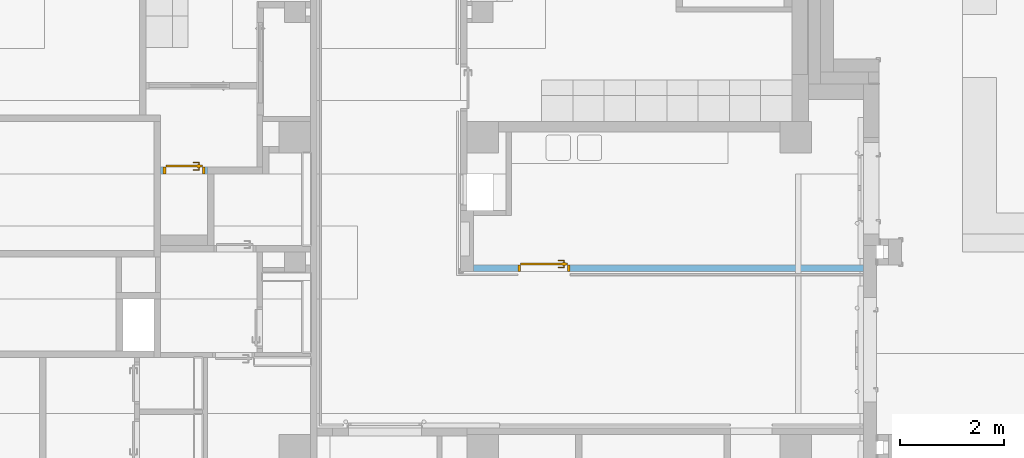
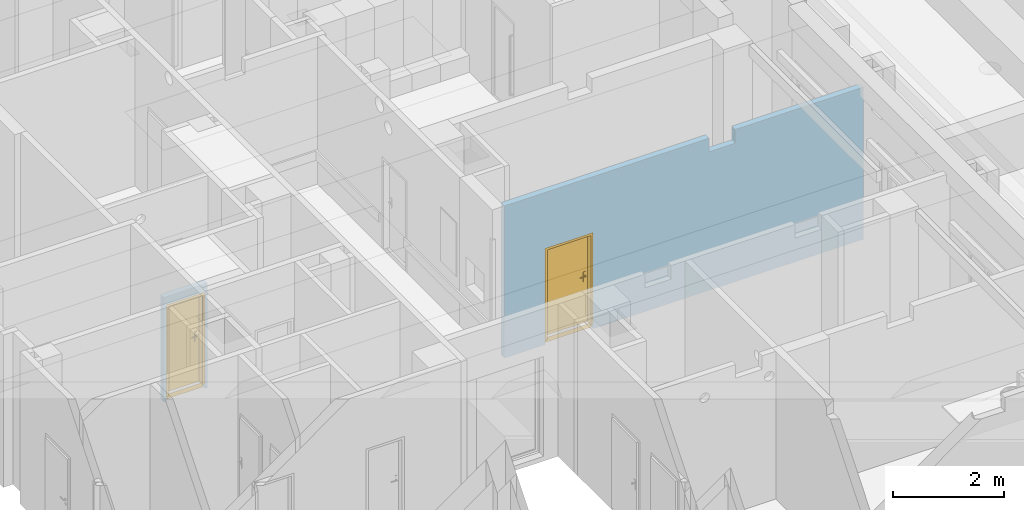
# One storey, part 96 of 140: 2 doors, 3 openings, plus 2 elements that do not belong to this part.
"""IFC4 building model written with IfcOpenShell, lengths in metres."""

from ifc_helpers import new_model, entity, si_unit, converted_unit, derived_unit, frame, frame_2d, origin, origin_with_axes, place, context, subcontext, project, spatial, polyline, rectangle, outline, extrude, closed_shell, open_shell, surface_model, source, transform, mapped, material, layer, layer_set, layer_usage, type_object, element, fill, save


model = new_model("IFC4")

# Units and contexts
model_context = context("Model", 3, precision=1e-05, world=origin())
body_context = subcontext(model_context, "Body", "Model", "MODEL_VIEW")
ifc_project = project(units=[si_unit("LENGTHUNIT", "METRE"), si_unit("AREAUNIT", "SQUARE_METRE"), si_unit("VOLUMEUNIT", "CUBIC_METRE"), si_unit("MASSUNIT", "GRAM", prefix="KILO"), converted_unit("PLANEANGLEUNIT", "DEGREE", entity("IfcPlaneAngleMeasure", 0.0174532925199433), si_unit("PLANEANGLEUNIT", "RADIAN"), dimensions=[0, 0, 0, 0, 0, 0, 0]), derived_unit("THERMALTRANSMITTANCEUNIT", [(si_unit("POWERUNIT", "WATT"), 1), (si_unit("THERMODYNAMICTEMPERATUREUNIT", "KELVIN"), -1), (si_unit("LENGTHUNIT", "METRE"), -2)]), derived_unit("VOLUMETRICFLOWRATEUNIT", [(si_unit("LENGTHUNIT", "METRE"), 3), (converted_unit("TIMEUNIT", "hour", entity("IfcTimeMeasure", 3600.0), si_unit("TIMEUNIT", "SECOND"), dimensions=[0, 0, 1, 0, 0, 0, 0]), -1), (si_unit("LENGTHUNIT", "METRE"), -1)])], contexts=[model_context])

# Site, building, storey
site_placement = place(None, origin())
site = spatial("IfcSite", under=ifc_project, at=site_placement, Name="3. ASŘ", CompositionType="ELEMENT")
building_placement = place(site_placement, origin())
building = spatial("IfcBuilding", under=site, at=building_placement, Name="Pavilon C", CompositionType="ELEMENT")
storey_placement = place(building_placement, origin())
storey = spatial("IfcBuildingStorey", under=building, at=storey_placement, Name="Půdorys 1.NP", CompositionType="ELEMENT", Elevation=0.0)

# Wall, opening, door
ifc_material_1 = material(Name="YTONG 125")
ifc_layer_1 = layer(ifc_material_1, 0.125)
ifc_layer_set_1 = layer_set([ifc_layer_1])
ifc_layer_usage_1 = layer_usage(ifc_layer_set_1, "AXIS2", "POSITIVE", 0.0)
wall_1_placement = place(storey_placement, frame((37.775, 18.5, -0.1)))
wall_1 = element("IfcWall", 1, at=wall_1_placement, inside=storey, material=ifc_layer_usage_1, Name="YTONG 125", context=body_context, shape_type="SweptSolid", body=[
    extrude(rectangle(XDim=0.9, YDim=0.125, at=frame_2d((0.45, 0.0625), x_axis=(1.0, 0.0))), origin_with_axes(), (0.0, 0.0, 1.0), 2.3),
])
opening_1_placement = place(wall_1_placement, frame((0.05, 0.0, 0.0), z_axis=(0.0, 1.0, 0.0), x_axis=(0.0, 0.0, 1.0)))
opening_1 = element("IfcOpeningElement", 2, at=opening_1_placement, cuts=wall_1, Name="Dveřní otvor", ObjectType="Opening", context=body_context, shape_type="SweptSolid", body=[
    extrude(outline(polyline([(0.0, 0.8), (2.12, 0.8), (2.12, 0.0), (0.0, 0.0), (0.0, 0.8)])), origin_with_axes(), (0.0, 0.0, 1.0), 0.125),
])
door_type_1 = type_object("IfcDoorType", Name="I.D107", OperationType="NOTDEFINED", ParameterTakesPrecedence=False, PredefinedType="DOOR")
shared_shape_1 = source(origin_with_axes(), body_context, "Body", "SurfaceModel", [
    surface_model("IfcShellBasedSurfaceModel", [(0.0, 0.0625, 0.0), (0.8, 0.0625, 0.0), (0.8, 0.0625, 0.1), (0.0, 0.0625, 0.1)], [open_shell([[[0, 1, 2, 3]]], orient=[[False]])]),
    surface_model("IfcShellBasedSurfaceModel", [(0.0, 0.125, 2.12), (0.0, 0.125, 0.101), (0.05, 0.125, 0.101), (0.05, 0.125, 2.12), (0.0, 0.0, 0.101), (0.0, 2.41584530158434e-16, 2.12), (0.05, 2.41584530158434e-16, 2.12), (0.05, 0.0, 0.101)], [closed_shell([[[0, 1, 2, 3]], [[4, 5, 6, 7]], [[1, 0, 5, 4]], [[2, 1, 4, 7]], [[3, 2, 7, 6]], [[0, 3, 6, 5]]], orient=[[False], [False], [False], [False], [False], [False]])]),
    surface_model("IfcShellBasedSurfaceModel", [(0.75, 0.125, 2.12), (0.75, 0.125, 0.101), (0.8, 0.125, 0.101), (0.8, 0.125, 2.12), (0.75, 0.0, 0.101), (0.75, 2.41584530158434e-16, 2.12), (0.8, 2.41584530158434e-16, 2.12), (0.8, 0.0, 0.101)], [closed_shell([[[0, 1, 2, 3]], [[4, 5, 6, 7]], [[1, 0, 5, 4]], [[2, 1, 4, 7]], [[3, 2, 7, 6]], [[0, 3, 6, 5]]], orient=[[False], [False], [False], [False], [False], [False]])]),
    surface_model("IfcShellBasedSurfaceModel", [(0.05, 0.125, 2.12), (0.05, 0.125, 2.07), (0.75, 0.125, 2.07), (0.75, 0.125, 2.12), (0.05, 2.41584530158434e-16, 2.07), (0.05, 2.41584530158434e-16, 2.12), (0.75, 2.41584530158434e-16, 2.12), (0.75, 2.41584530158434e-16, 2.07)], [closed_shell([[[0, 1, 2, 3]], [[4, 5, 6, 7]], [[1, 0, 5, 4]], [[2, 1, 4, 7]], [[3, 2, 7, 6]], [[0, 3, 6, 5]]], orient=[[False], [False], [False], [False], [False], [False]])]),
    surface_model("IfcShellBasedSurfaceModel", [(0.05, 0.165, 2.07), (0.05, 0.165, 0.101), (0.75, 0.165, 0.101), (0.75, 0.165, 2.07), (0.05, 0.125, 0.101), (0.05, 0.125, 2.07), (0.75, 0.125, 2.07), (0.75, 0.125, 0.101)], [closed_shell([[[0, 1, 2, 3]], [[4, 5, 6, 7]], [[1, 0, 5, 4]], [[2, 1, 4, 7]], [[3, 2, 7, 6]], [[0, 3, 6, 5]]], orient=[[False], [False], [False], [False], [False], [False]])]),
    surface_model("IfcShellBasedSurfaceModel", [(0.09, 0.125, 1.226), (0.09, 0.125, 1.011), (0.14, 0.125, 1.011), (0.14, 0.125, 1.226), (0.09, 0.115, 1.011), (0.09, 0.115, 1.226), (0.14, 0.115, 1.226), (0.14, 0.115, 1.011)], [closed_shell([[[0, 1, 2, 3]], [[4, 5, 6, 7]], [[1, 0, 5, 4]], [[2, 1, 4, 7]], [[3, 2, 7, 6]], [[0, 3, 6, 5]]], orient=[[False], [False], [False], [False], [False], [False]])]),
    surface_model("IfcShellBasedSurfaceModel", [(0.115, 0.115, 1.161), (0.11, 0.115, 1.15966025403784), (0.106339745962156, 0.115, 1.156), (0.105, 0.115, 1.151), (0.106339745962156, 0.115, 1.146), (0.11, 0.115, 1.14233974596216), (0.115, 0.115, 1.141), (0.12, 0.115, 1.14233974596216), (0.123660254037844, 0.115, 1.146), (0.125, 0.115, 1.151), (0.123660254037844, 0.115, 1.156), (0.12, 0.115, 1.15966025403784), (0.115, 0.0750000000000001, 1.161), (0.11, 0.0700000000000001, 1.15966025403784), (0.106339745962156, 0.0663397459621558, 1.156), (0.105, 0.0650000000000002, 1.151), (0.106339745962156, 0.0663397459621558, 1.146), (0.11, 0.0700000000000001, 1.14233974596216), (0.115, 0.0750000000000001, 1.141), (0.12, 0.0800000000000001, 1.14233974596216), (0.123660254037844, 0.0836602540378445, 1.146), (0.125, 0.0850000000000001, 1.151), (0.123660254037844, 0.0836602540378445, 1.156), (0.12, 0.0800000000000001, 1.15966025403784), (0.23, 0.0750000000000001, 1.161), (0.23, 0.0700000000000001, 1.15966025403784), (0.23, 0.0663397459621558, 1.156), (0.23, 0.0650000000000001, 1.151), (0.23, 0.0663397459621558, 1.146), (0.23, 0.0700000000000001, 1.14233974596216), (0.23, 0.0750000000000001, 1.141), (0.23, 0.0800000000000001, 1.14233974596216), (0.23, 0.0836602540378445, 1.146), (0.23, 0.0850000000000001, 1.151), (0.23, 0.0836602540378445, 1.156), (0.23, 0.0800000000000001, 1.15966025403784)], [open_shell([[[0, 1, 2, 3, 4, 5, 6, 7, 8, 9, 10, 11]], [[0, 12, 13, 1]], [[1, 13, 14, 2]], [[2, 14, 15, 3]], [[3, 15, 16, 4]], [[4, 16, 17, 5]], [[5, 17, 18, 6]], [[6, 18, 19, 7]], [[7, 19, 20, 8]], [[8, 20, 21, 9]], [[9, 21, 22, 10]], [[10, 22, 23, 11]], [[11, 23, 12, 0]], [[12, 24, 25, 13]], [[13, 25, 26, 14]], [[14, 26, 27, 15]], [[15, 27, 28, 16]], [[16, 28, 29, 17]], [[17, 29, 30, 18]], [[18, 30, 31, 19]], [[19, 31, 32, 20]], [[20, 32, 33, 21]], [[21, 33, 34, 22]], [[22, 34, 35, 23]], [[23, 35, 24, 12]]], orient=[[False], [False], [False], [False], [False], [False], [False], [False], [False], [False], [False], [False], [False], [False], [False], [False], [False], [False], [False], [False], [False], [False], [False], [False], [False]])]),
    surface_model("IfcShellBasedSurfaceModel", [(0.09, 0.165, 1.226), (0.14, 0.165, 1.226), (0.14, 0.165, 1.011), (0.09, 0.165, 1.011), (0.09, 0.175, 1.011), (0.14, 0.175, 1.011), (0.14, 0.175, 1.226), (0.09, 0.175, 1.226)], [closed_shell([[[0, 1, 2, 3]], [[4, 5, 6, 7]], [[3, 4, 7, 0]], [[2, 5, 4, 3]], [[1, 6, 5, 2]], [[0, 7, 6, 1]]], orient=[[False], [False], [False], [False], [False], [False]])]),
    surface_model("IfcShellBasedSurfaceModel", [(0.115, 0.175, 1.161), (0.12, 0.175, 1.15966025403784), (0.123660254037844, 0.175, 1.156), (0.125, 0.175, 1.151), (0.123660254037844, 0.175, 1.146), (0.12, 0.175, 1.14233974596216), (0.115, 0.175, 1.141), (0.11, 0.175, 1.14233974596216), (0.106339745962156, 0.175, 1.146), (0.105, 0.175, 1.151), (0.106339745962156, 0.175, 1.156), (0.11, 0.175, 1.15966025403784), (0.11, 0.22, 1.15966025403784), (0.115, 0.215, 1.161), (0.106339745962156, 0.223660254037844, 1.156), (0.105, 0.225, 1.151), (0.106339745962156, 0.223660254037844, 1.146), (0.11, 0.22, 1.14233974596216), (0.115, 0.215, 1.141), (0.12, 0.21, 1.14233974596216), (0.123660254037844, 0.206339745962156, 1.146), (0.125, 0.205, 1.151), (0.123660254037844, 0.206339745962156, 1.156), (0.12, 0.21, 1.15966025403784), (0.23, 0.22, 1.15966025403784), (0.23, 0.215, 1.161), (0.23, 0.223660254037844, 1.156), (0.23, 0.225, 1.151), (0.23, 0.223660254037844, 1.146), (0.23, 0.22, 1.14233974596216), (0.23, 0.215, 1.141), (0.23, 0.21, 1.14233974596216), (0.23, 0.206339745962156, 1.146), (0.23, 0.205, 1.151), (0.23, 0.206339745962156, 1.156), (0.23, 0.21, 1.15966025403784)], [open_shell([[[0, 1, 2, 3, 4, 5, 6, 7, 8, 9, 10, 11]], [[0, 11, 12, 13]], [[11, 10, 14, 12]], [[10, 9, 15, 14]], [[9, 8, 16, 15]], [[8, 7, 17, 16]], [[7, 6, 18, 17]], [[6, 5, 19, 18]], [[5, 4, 20, 19]], [[4, 3, 21, 20]], [[3, 2, 22, 21]], [[2, 1, 23, 22]], [[1, 0, 13, 23]], [[13, 12, 24, 25]], [[12, 14, 26, 24]], [[14, 15, 27, 26]], [[15, 16, 28, 27]], [[16, 17, 29, 28]], [[17, 18, 30, 29]], [[18, 19, 31, 30]], [[19, 20, 32, 31]], [[20, 21, 33, 32]], [[21, 22, 34, 33]], [[22, 23, 35, 34]], [[23, 13, 25, 35]]], orient=[[False], [False], [False], [False], [False], [False], [False], [False], [False], [False], [False], [False], [False], [False], [False], [False], [False], [False], [False], [False], [False], [False], [False], [False], [False]])]),
])
door_1_placement = place(opening_1_placement, frame((0.0, 0.8, 0.0), z_axis=(1.0, 0.0, 0.0), x_axis=(0.0, -1.0, 0.0)))
door_1 = element("IfcDoor", 3, at=door_1_placement, inside=storey, type_object=door_type_1, Name="I.D107", OverallHeight=2.12, OverallWidth=0.8, context=body_context, shape_type="MappedRepresentation", body=[
    mapped(shared_shape_1, transform((0.0, 0.0, 0.0), x_axis=(1.0, 0.0, 0.0), y_axis=(0.0, -1.0, 0.0), z_axis=(0.0, 0.0, 1.0), scale=1.0)),
])
fill(opening_1, door_1)

# Wall, openings, door
ifc_material_2 = material(Name="SDK - 1 KCE + DVOJITÉ OPLÁŠTĚNÍ")
ifc_layer_2 = layer(ifc_material_2, 0.125)
ifc_layer_set_2 = layer_set([ifc_layer_2])
ifc_layer_usage_2 = layer_usage(ifc_layer_set_2, "AXIS2", "POSITIVE", 0.0)
wall_2_placement = place(storey_placement, frame((43.775, 16.625, -0.1)))
wall_2 = element("IfcWall", 4, at=wall_2_placement, inside=storey, material=ifc_layer_usage_2, Name="SDK - 1 KCE + DVOJITÉ OPLÁŠTĚNÍ", context=body_context, shape_type="SweptSolid", body=[
    extrude(rectangle(XDim=7.475, YDim=0.125, at=frame_2d((3.7375, 0.0625), x_axis=(1.0, 0.0))), origin_with_axes(), (0.0, 0.0, 1.0), 3.35),
])
opening_2_placement = place(wall_2_placement, frame((0.85, 0.0, 0.0), z_axis=(0.0, 1.0, 0.0), x_axis=(0.0, 0.0, 1.0)))
opening_2 = element("IfcOpeningElement", 5, at=opening_2_placement, cuts=wall_2, Name="Dveřní otvor", ObjectType="Opening", context=body_context, shape_type="SweptSolid", body=[
    extrude(outline(polyline([(0.0, 1.0), (2.12, 1.0), (2.12, 0.0), (0.0, 0.0), (0.0, 1.0)])), origin_with_axes(), (0.0, 0.0, 1.0), 0.125),
])
opening_3_placement = place(wall_2_placement, frame((4.25778719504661, 0.0, 3.05), z_axis=(0.0, 1.0, 0.0), x_axis=(0.0, 0.0, 1.0)))
element("IfcOpeningElement", 6, at=opening_3_placement, cuts=wall_2, Name="VZT", ObjectType="Opening", context=body_context, shape_type="SweptSolid", body=[
    extrude(outline(polyline([(0.0, 0.55), (0.3, 0.55), (0.3, 0.0), (0.0, 0.0), (0.0, 0.55)])), origin_with_axes(), (0.0, 0.0, 1.0), 0.125),
])
door_type_2 = type_object("IfcDoorType", Name="I.D104", OperationType="NOTDEFINED", ParameterTakesPrecedence=False, PredefinedType="DOOR")
shared_shape_2 = source(origin_with_axes(), body_context, "Body", "SurfaceModel", [
    surface_model("IfcShellBasedSurfaceModel", [(0.0, 0.0625, 0.0), (1.0, 0.0625, 0.0), (1.0, 0.0625, 0.1), (0.0, 0.0625, 0.1)], [open_shell([[[0, 1, 2, 3]]], orient=[[False]])]),
    surface_model("IfcShellBasedSurfaceModel", [(0.0, 0.125, 2.12), (0.0, 0.125, 0.101), (0.05, 0.125, 0.101), (0.05, 0.125, 2.12), (0.0, 0.0, 0.101), (0.0, 2.41584530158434e-16, 2.12), (0.05, 2.41584530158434e-16, 2.12), (0.05, 0.0, 0.101)], [closed_shell([[[0, 1, 2, 3]], [[4, 5, 6, 7]], [[1, 0, 5, 4]], [[2, 1, 4, 7]], [[3, 2, 7, 6]], [[0, 3, 6, 5]]], orient=[[False], [False], [False], [False], [False], [False]])]),
    surface_model("IfcShellBasedSurfaceModel", [(0.95, 0.125, 2.12), (0.95, 0.125, 0.101), (1.0, 0.125, 0.101), (1.0, 0.125, 2.12), (0.95, 0.0, 0.101), (0.95, 2.41584530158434e-16, 2.12), (1.0, 2.41584530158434e-16, 2.12), (1.0, 0.0, 0.101)], [closed_shell([[[0, 1, 2, 3]], [[4, 5, 6, 7]], [[1, 0, 5, 4]], [[2, 1, 4, 7]], [[3, 2, 7, 6]], [[0, 3, 6, 5]]], orient=[[False], [False], [False], [False], [False], [False]])]),
    surface_model("IfcShellBasedSurfaceModel", [(0.05, 0.125, 2.12), (0.05, 0.125, 2.07), (0.95, 0.125, 2.07), (0.95, 0.125, 2.12), (0.05, 2.41584530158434e-16, 2.07), (0.05, 2.41584530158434e-16, 2.12), (0.95, 2.41584530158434e-16, 2.12), (0.95, 2.41584530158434e-16, 2.07)], [closed_shell([[[0, 1, 2, 3]], [[4, 5, 6, 7]], [[1, 0, 5, 4]], [[2, 1, 4, 7]], [[3, 2, 7, 6]], [[0, 3, 6, 5]]], orient=[[False], [False], [False], [False], [False], [False]])]),
    surface_model("IfcShellBasedSurfaceModel", [(0.05, 0.165, 2.07), (0.05, 0.165, 0.101), (0.95, 0.165, 0.101), (0.95, 0.165, 2.07), (0.05, 0.125, 0.101), (0.05, 0.125, 2.07), (0.95, 0.125, 2.07), (0.95, 0.125, 0.101)], [closed_shell([[[0, 1, 2, 3]], [[4, 5, 6, 7]], [[1, 0, 5, 4]], [[2, 1, 4, 7]], [[3, 2, 7, 6]], [[0, 3, 6, 5]]], orient=[[False], [False], [False], [False], [False], [False]])]),
    surface_model("IfcShellBasedSurfaceModel", [(0.86, 0.125, 1.226), (0.86, 0.125, 1.011), (0.91, 0.125, 1.011), (0.91, 0.125, 1.226), (0.86, 0.115, 1.011), (0.86, 0.115, 1.226), (0.91, 0.115, 1.226), (0.91, 0.115, 1.011)], [closed_shell([[[0, 1, 2, 3]], [[4, 5, 6, 7]], [[1, 0, 5, 4]], [[2, 1, 4, 7]], [[3, 2, 7, 6]], [[0, 3, 6, 5]]], orient=[[False], [False], [False], [False], [False], [False]])]),
    surface_model("IfcShellBasedSurfaceModel", [(0.885, 0.115, 1.161), (0.88, 0.115, 1.15966025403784), (0.876339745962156, 0.115, 1.156), (0.875, 0.115, 1.151), (0.876339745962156, 0.115, 1.146), (0.88, 0.115, 1.14233974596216), (0.885, 0.115, 1.141), (0.89, 0.115, 1.14233974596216), (0.893660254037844, 0.115, 1.146), (0.895, 0.115, 1.151), (0.893660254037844, 0.115, 1.156), (0.89, 0.115, 1.15966025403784), (0.89, 0.0700000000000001, 1.15966025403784), (0.885, 0.0750000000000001, 1.161), (0.893660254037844, 0.0663397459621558, 1.156), (0.895, 0.0650000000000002, 1.151), (0.893660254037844, 0.0663397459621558, 1.146), (0.89, 0.0700000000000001, 1.14233974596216), (0.885, 0.0750000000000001, 1.141), (0.88, 0.0800000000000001, 1.14233974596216), (0.876339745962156, 0.0836602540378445, 1.146), (0.875, 0.0850000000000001, 1.151), (0.876339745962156, 0.0836602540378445, 1.156), (0.88, 0.0800000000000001, 1.15966025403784), (0.77, 0.0700000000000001, 1.15966025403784), (0.77, 0.0750000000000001, 1.161), (0.77, 0.0663397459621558, 1.156), (0.77, 0.0650000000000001, 1.151), (0.77, 0.0663397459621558, 1.146), (0.77, 0.0700000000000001, 1.14233974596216), (0.77, 0.0750000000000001, 1.141), (0.77, 0.0800000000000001, 1.14233974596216), (0.77, 0.0836602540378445, 1.146), (0.77, 0.0850000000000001, 1.151), (0.77, 0.0836602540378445, 1.156), (0.77, 0.0800000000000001, 1.15966025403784)], [open_shell([[[0, 1, 2, 3, 4, 5, 6, 7, 8, 9, 10, 11]], [[0, 11, 12, 13]], [[11, 10, 14, 12]], [[10, 9, 15, 14]], [[9, 8, 16, 15]], [[8, 7, 17, 16]], [[7, 6, 18, 17]], [[6, 5, 19, 18]], [[5, 4, 20, 19]], [[4, 3, 21, 20]], [[3, 2, 22, 21]], [[2, 1, 23, 22]], [[1, 0, 13, 23]], [[13, 12, 24, 25]], [[12, 14, 26, 24]], [[14, 15, 27, 26]], [[15, 16, 28, 27]], [[16, 17, 29, 28]], [[17, 18, 30, 29]], [[18, 19, 31, 30]], [[19, 20, 32, 31]], [[20, 21, 33, 32]], [[21, 22, 34, 33]], [[22, 23, 35, 34]], [[23, 13, 25, 35]]], orient=[[False], [False], [False], [False], [False], [False], [False], [False], [False], [False], [False], [False], [False], [False], [False], [False], [False], [False], [False], [False], [False], [False], [False], [False], [False]])]),
    surface_model("IfcShellBasedSurfaceModel", [(0.86, 0.165, 1.226), (0.91, 0.165, 1.226), (0.91, 0.165, 1.011), (0.86, 0.165, 1.011), (0.86, 0.175, 1.011), (0.91, 0.175, 1.011), (0.91, 0.175, 1.226), (0.86, 0.175, 1.226)], [closed_shell([[[0, 1, 2, 3]], [[4, 5, 6, 7]], [[3, 4, 7, 0]], [[2, 5, 4, 3]], [[1, 6, 5, 2]], [[0, 7, 6, 1]]], orient=[[False], [False], [False], [False], [False], [False]])]),
    surface_model("IfcShellBasedSurfaceModel", [(0.885, 0.175, 1.161), (0.89, 0.175, 1.15966025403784), (0.893660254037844, 0.175, 1.156), (0.895, 0.175, 1.151), (0.893660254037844, 0.175, 1.146), (0.89, 0.175, 1.14233974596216), (0.885, 0.175, 1.141), (0.88, 0.175, 1.14233974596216), (0.876339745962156, 0.175, 1.146), (0.875, 0.175, 1.151), (0.876339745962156, 0.175, 1.156), (0.88, 0.175, 1.15966025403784), (0.885, 0.215, 1.161), (0.89, 0.22, 1.15966025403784), (0.893660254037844, 0.223660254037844, 1.156), (0.895, 0.225, 1.151), (0.893660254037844, 0.223660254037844, 1.146), (0.89, 0.22, 1.14233974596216), (0.885, 0.215, 1.141), (0.88, 0.21, 1.14233974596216), (0.876339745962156, 0.206339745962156, 1.146), (0.875, 0.205, 1.151), (0.876339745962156, 0.206339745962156, 1.156), (0.88, 0.21, 1.15966025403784), (0.77, 0.215, 1.161), (0.77, 0.22, 1.15966025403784), (0.77, 0.223660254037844, 1.156), (0.77, 0.225, 1.151), (0.77, 0.223660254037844, 1.146), (0.77, 0.22, 1.14233974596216), (0.77, 0.215, 1.141), (0.77, 0.21, 1.14233974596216), (0.77, 0.206339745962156, 1.146), (0.77, 0.205, 1.151), (0.77, 0.206339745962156, 1.156), (0.77, 0.21, 1.15966025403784)], [open_shell([[[0, 1, 2, 3, 4, 5, 6, 7, 8, 9, 10, 11]], [[0, 12, 13, 1]], [[1, 13, 14, 2]], [[2, 14, 15, 3]], [[3, 15, 16, 4]], [[4, 16, 17, 5]], [[5, 17, 18, 6]], [[6, 18, 19, 7]], [[7, 19, 20, 8]], [[8, 20, 21, 9]], [[9, 21, 22, 10]], [[10, 22, 23, 11]], [[11, 23, 12, 0]], [[12, 24, 25, 13]], [[13, 25, 26, 14]], [[14, 26, 27, 15]], [[15, 27, 28, 16]], [[16, 28, 29, 17]], [[17, 29, 30, 18]], [[18, 30, 31, 19]], [[19, 31, 32, 20]], [[20, 32, 33, 21]], [[21, 33, 34, 22]], [[22, 34, 35, 23]], [[23, 35, 24, 12]]], orient=[[False], [False], [False], [False], [False], [False], [False], [False], [False], [False], [False], [False], [False], [False], [False], [False], [False], [False], [False], [False], [False], [False], [False], [False], [False]])]),
])
door_2_placement = place(opening_2_placement, frame((0.0, 0.0, 0.0), z_axis=(1.0, 0.0, 0.0), x_axis=(0.0, 1.0, 0.0)))
door_2 = element("IfcDoor", 7, at=door_2_placement, inside=storey, type_object=door_type_2, Name="I.D104", OverallHeight=2.12, OverallWidth=1.0, context=body_context, shape_type="MappedRepresentation", body=[
    mapped(shared_shape_2, transform((0.0, 0.0, 0.0), x_axis=(1.0, 0.0, 0.0), y_axis=(0.0, 1.0, 0.0), z_axis=(0.0, 0.0, 1.0), scale=1.0)),
])
fill(opening_2, door_2)

save(model, "model.ifc")
